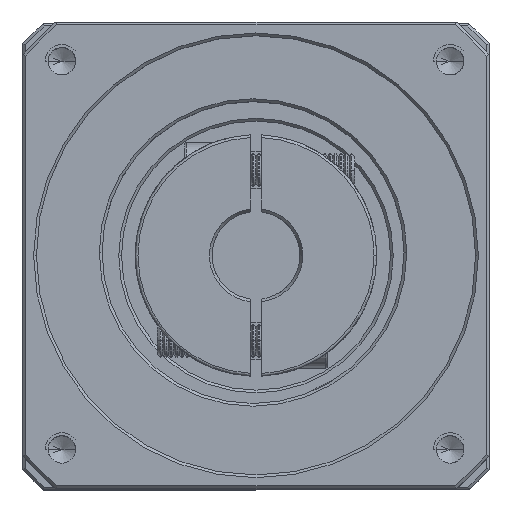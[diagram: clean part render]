
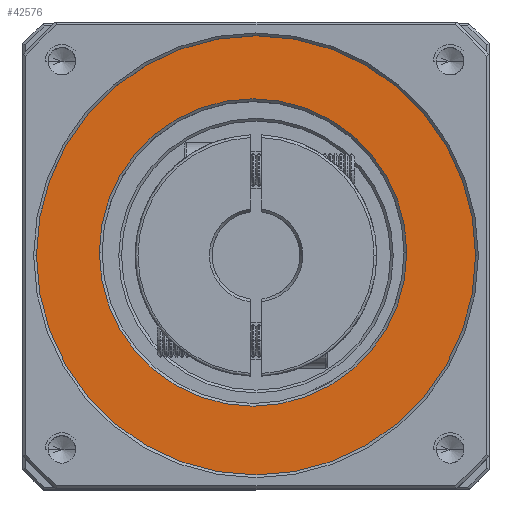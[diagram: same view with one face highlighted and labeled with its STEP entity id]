
A CAD part, top view. The second image highlights one B-rep face of the part: STEP entity #42576.
In plain terms, the highlighted planar face has unit normal (0, 0, 1).
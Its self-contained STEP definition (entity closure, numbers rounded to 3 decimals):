
#521 = DIRECTION ( 'NONE',  ( 1., 0., 0. ) ) ;
#3022 = DIRECTION ( 'NONE',  ( 1., 0., 0. ) ) ;
#3460 = EDGE_CURVE ( 'NONE', #80539, #10322, #30803, .T. ) ;
#3490 = VERTEX_POINT ( 'NONE', #53801 ) ;
#5438 = CIRCLE ( 'NONE', #49910, 40. ) ;
#5505 = ORIENTED_EDGE ( 'NONE', *, *, #52315, .T. ) ;
#6357 = AXIS2_PLACEMENT_3D ( 'NONE', #110358, #56687, #3022 ) ;
#8980 = EDGE_LOOP ( 'NONE', ( #85464, #95333 ) ) ;
#10322 = VERTEX_POINT ( 'NONE', #42817 ) ;
#12891 = CARTESIAN_POINT ( 'NONE',  ( -117.435, 24.89, 6.287 ) ) ;
#17718 = CARTESIAN_POINT ( 'NONE',  ( -89.435, 24.89, 6.287 ) ) ;
#17992 = CARTESIAN_POINT ( 'NONE',  ( -88.893, 24.356, 6.287 ) ) ;
#23874 = FACE_OUTER_BOUND ( 'NONE', #35099, .T. ) ;
#26765 = DIRECTION ( 'NONE',  ( 1., 0., 0. ) ) ;
#27034 = DIRECTION ( 'NONE',  ( 1., 0., 0. ) ) ;
#28688 = DIRECTION ( 'NONE',  ( 0., 0., 1. ) ) ;
#30803 = CIRCLE ( 'NONE', #42410, 28. ) ;
#35099 = EDGE_LOOP ( 'NONE', ( #5505, #58740 ) ) ;
#37537 = CARTESIAN_POINT ( 'NONE',  ( -48.893, 24.356, 6.287 ) ) ;
#38864 = EDGE_CURVE ( 'NONE', #10322, #80539, #95860, .T. ) ;
#41698 = VERTEX_POINT ( 'NONE', #37537 ) ;
#42410 = AXIS2_PLACEMENT_3D ( 'NONE', #17718, #80400, #26765 ) ;
#42576 = ADVANCED_FACE ( 'NONE', ( #23874, #92629 ), #98029, .T. ) ;
#42817 = CARTESIAN_POINT ( 'NONE',  ( -61.435, 24.89, 6.287 ) ) ;
#49910 = AXIS2_PLACEMENT_3D ( 'NONE', #82318, #28688, #91391 ) ;
#52315 = EDGE_CURVE ( 'NONE', #41698, #3490, #81781, .T. ) ;
#53801 = CARTESIAN_POINT ( 'NONE',  ( -128.893, 24.356, 6.287 ) ) ;
#54160 = DIRECTION ( 'NONE',  ( 0., 0., -1. ) ) ;
#55663 = AXIS2_PLACEMENT_3D ( 'NONE', #107846, #54160, #521 ) ;
#56687 = DIRECTION ( 'NONE',  ( 0., 0., 1. ) ) ;
#58740 = ORIENTED_EDGE ( 'NONE', *, *, #64305, .T. ) ;
#64305 = EDGE_CURVE ( 'NONE', #3490, #41698, #5438, .T. ) ;
#80400 = DIRECTION ( 'NONE',  ( 0., 0., -1. ) ) ;
#80539 = VERTEX_POINT ( 'NONE', #12891 ) ;
#80676 = DIRECTION ( 'NONE',  ( 0., 0., 1. ) ) ;
#81781 = CIRCLE ( 'NONE', #6357, 40. ) ;
#82318 = CARTESIAN_POINT ( 'NONE',  ( -88.893, 24.356, 6.287 ) ) ;
#85464 = ORIENTED_EDGE ( 'NONE', *, *, #38864, .T. ) ;
#87863 = AXIS2_PLACEMENT_3D ( 'NONE', #17992, #80676, #27034 ) ;
#91391 = DIRECTION ( 'NONE',  ( 1., 0., 0. ) ) ;
#92629 = FACE_BOUND ( 'NONE', #8980, .T. ) ;
#95333 = ORIENTED_EDGE ( 'NONE', *, *, #3460, .T. ) ;
#95860 = CIRCLE ( 'NONE', #55663, 28. ) ;
#98029 = PLANE ( 'NONE',  #87863 ) ;
#107846 = CARTESIAN_POINT ( 'NONE',  ( -89.435, 24.89, 6.287 ) ) ;
#110358 = CARTESIAN_POINT ( 'NONE',  ( -88.893, 24.356, 6.287 ) ) ;
